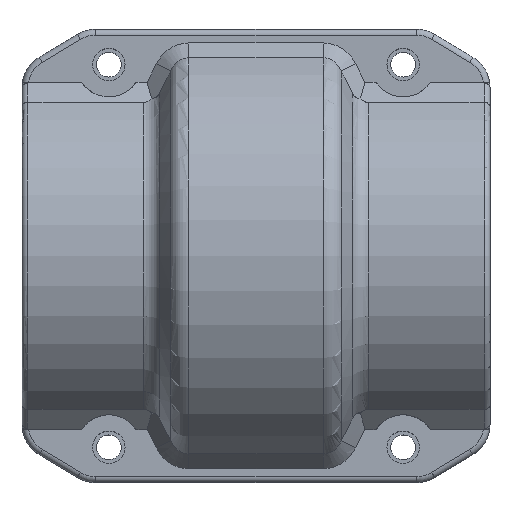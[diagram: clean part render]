
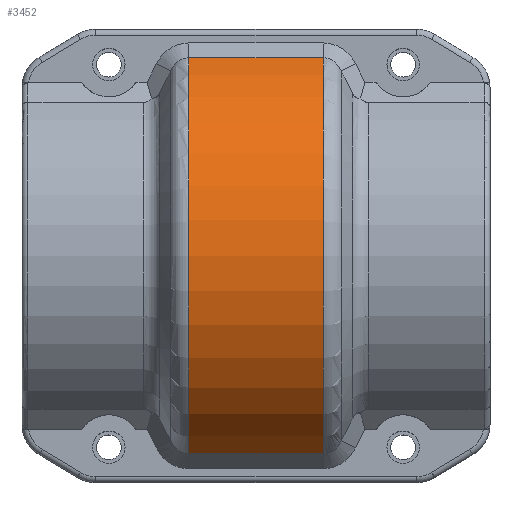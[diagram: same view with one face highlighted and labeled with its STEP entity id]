
A CAD part, top view. The second image highlights one B-rep face of the part: STEP entity #3452.
In plain terms, the highlighted cylindrical face has radius 37.15 mm (diameter 74.3 mm), a partial arc.
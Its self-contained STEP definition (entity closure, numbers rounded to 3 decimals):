
#836=CARTESIAN_POINT('',(-11.462,0.,0.));
#837=DIRECTION('',(1.,0.,0.));
#838=DIRECTION('',(0.,0.,1.));
#839=AXIS2_PLACEMENT_3D('',#836,#837,#838);
#860=CARTESIAN_POINT('',(-11.462,0.,0.));
#861=DIRECTION('',(1.,0.,0.));
#862=DIRECTION('',(0.,0.906,0.424));
#863=AXIS2_PLACEMENT_3D('',#860,#861,#862);
#868=DIRECTION('',(-1.,0.,0.));
#869=VECTOR('',#868,22.924);
#870=CARTESIAN_POINT('',(11.462,-33.64,15.763));
#871=LINE('',#870,#869);
#875=DIRECTION('',(1.,0.,0.));
#876=VECTOR('',#875,22.924);
#877=CARTESIAN_POINT('',(-11.462,33.64,15.763));
#878=LINE('',#877,#876);
#890=CARTESIAN_POINT('',(11.462,0.,0.));
#891=DIRECTION('',(-1.,0.,0.));
#892=DIRECTION('',(0.,-0.906,0.424));
#893=AXIS2_PLACEMENT_3D('',#890,#891,#892);
#898=CARTESIAN_POINT('',(11.462,0.,0.));
#899=DIRECTION('',(-1.,0.,0.));
#900=DIRECTION('',(0.,0.,1.));
#901=AXIS2_PLACEMENT_3D('',#898,#899,#900);
#1551=CARTESIAN_POINT('',(11.462,-33.64,15.763));
#2241=CARTESIAN_POINT('',(-11.462,33.64,15.763));
#2602=VERTEX_POINT('',#1551);
#2603=CARTESIAN_POINT('',(11.462,0.,37.15));
#2604=VERTEX_POINT('',#2603);
#2605=CARTESIAN_POINT('',(11.462,33.64,15.763));
#2606=VERTEX_POINT('',#2605);
#2607=CARTESIAN_POINT('',(-11.462,-33.64,
15.763));
#2608=VERTEX_POINT('',#2607);
#2618=CARTESIAN_POINT('',(-11.462,0.,37.15));
#2619=VERTEX_POINT('',#2618);
#2620=VERTEX_POINT('',#2241);
#3435=CARTESIAN_POINT('',(45.067,0.,0.));
#3436=DIRECTION('',(-1.,0.,0.));
#3437=DIRECTION('',(0.,0.,1.));
#3438=AXIS2_PLACEMENT_3D('',#3435,#3436,#3437);
#3439=CYLINDRICAL_SURFACE('',#3438,37.15);
#3441=ORIENTED_EDGE('',*,*,#3440,.F.);
#3443=ORIENTED_EDGE('',*,*,#3442,.T.);
#3444=ORIENTED_EDGE('',*,*,#3422,.F.);
#3445=ORIENTED_EDGE('',*,*,#3430,.F.);
#3447=ORIENTED_EDGE('',*,*,#3446,.T.);
#3449=ORIENTED_EDGE('',*,*,#3448,.F.);
#3450=EDGE_LOOP('',(#3441,#3443,#3444,#3445,#3447,#3449));
#3451=FACE_OUTER_BOUND('',#3450,.F.);
#840=CIRCLE('',#839,37.15);
#864=CIRCLE('',#863,37.15);
#894=CIRCLE('',#893,37.15);
#902=CIRCLE('',#901,37.15);
#3422=EDGE_CURVE('',#2619,#2608,#840,.T.);
#3430=EDGE_CURVE('',#2620,#2619,#864,.T.);
#3440=EDGE_CURVE('',#2602,#2604,#894,.T.);
#3442=EDGE_CURVE('',#2602,#2608,#871,.T.);
#3446=EDGE_CURVE('',#2620,#2606,#878,.T.);
#3448=EDGE_CURVE('',#2604,#2606,#902,.T.);
#3452=ADVANCED_FACE('',(#3451),#3439,.T.);
